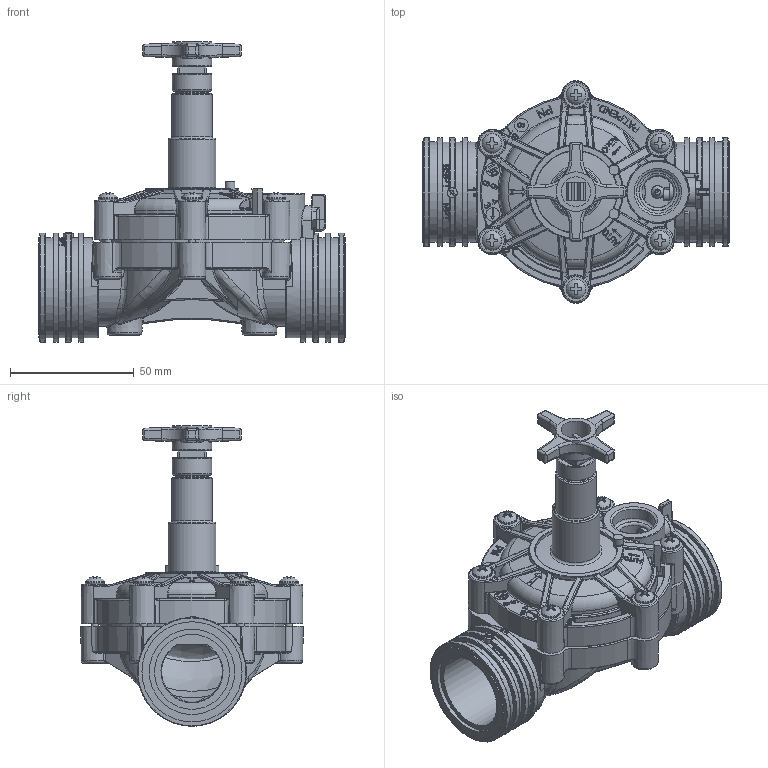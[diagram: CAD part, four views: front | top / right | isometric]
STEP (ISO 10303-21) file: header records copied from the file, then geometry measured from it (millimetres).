
FILE_DESCRIPTION((''),'2;1');
FILE_NAME('Hgal1P-Th-75','2011-07-28T13:48:25',('dafnaraz'),(''),'CADlook_v12.0','Cimatron E 9.0','');
FILE_SCHEMA(('AUTOMOTIVE_DESIGN { 1 2 10303 214 0 1 1 1 }'));
Length unit declared in the file: millimetre
Products named in the file (12): Hgal1P-Th-75.1; mav8x1_7; throt handle; pin-ma; 9021; override561; Bonnet1P_Th-ma; 2011; stem1; disc-throt1; dia-25; Body1P-ma
Assembly tree (16 placements, depth 2):
  Hgal1P-Th-75.1
    mav8x1_7  x6
    throt handle
    pin-ma
    9021
    override561
    Bonnet1P_Th-ma
    2011
    stem1
    disc-throt1
    dia-25
    Body1P-ma
Bounding box: 124 x 90 x 121.49 mm (x, y, z)
Volume: 104185.7 mm3; surface area: 96872.9 mm2
Topology: 15 solids, 24 shells, 4337 faces, 12092 edges, 9243 vertices
Faces by surface type: bspline 1282, cylinder 1170, plane 1102, torus 466, sphere 179, cone 138
Full cylindrical faces by diameter (mm): 1.9 x1, 2 x1, 2.2 x1, 2.4 x2, 2.5 x2, 2.9 x6, 3 x2, 3.8 x6, 4 x3, 4.1 x1, 4.2 x1, 4.25 x1, 4.4 x6, 4.5 x1, 4.8 x1, 5 x1, 5.5 x4, 5.6 x1, 6.9 x1, 7 x4, 7.1 x1, 7.65 x1, 7.851 x1, 8 x6, 8.6 x3, 11.1 x1, 11.21 x1, 11.3 x1, 11.5 x1, 11.7 x2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
Entity records: 263428 total; most frequent: CARTESIAN_POINT 127010, ORIENTED_EDGE 20194, DIRECTION 18609, EDGE_CURVE 10111, AXIS2_PLACEMENT_3D 7241, VERTEX_POINT 6230, COLOUR_RGB 5550, PRESENTATION_STYLE_ASSIGNMENT 5550
